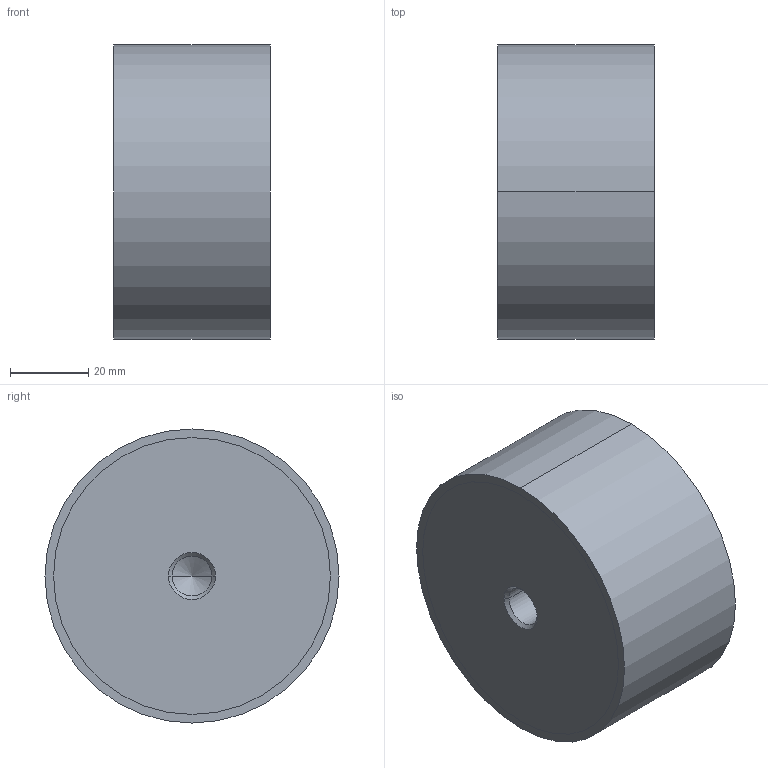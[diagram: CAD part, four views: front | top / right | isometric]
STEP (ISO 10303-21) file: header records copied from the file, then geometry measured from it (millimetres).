
FILE_DESCRIPTION (( 'STEP AP214' ), '1' );
FILE_NAME ('451-75-40-M12-EE-40.step', '2020-03-05T09:15:09', ( '' ), ( '' ), 'SwSTEP 2.0', 'SolidWorks 2019', '' );
FILE_SCHEMA (( 'AUTOMOTIVE_DESIGN' ));
Length unit declared in the file: millimetre
Products named in the file (1): 451-75-40-M12-EE-40
Bounding box: 40 x 75 x 75 mm (x, y, z)
Volume: 174483 mm3; surface area: 19029.2 mm2
Topology: 1 solids, 1 shells, 22 faces, 46 edges, 26 vertices
Faces by surface type: cylinder 10, cone 8, plane 4
Entity records: 684 total; most frequent: DIRECTION 112, CARTESIAN_POINT 91, ORIENTED_EDGE 84, AXIS2_PLACEMENT_3D 47, EDGE_CURVE 42, EDGE_LOOP 26, VERTEX_POINT 26, CIRCLE 24
